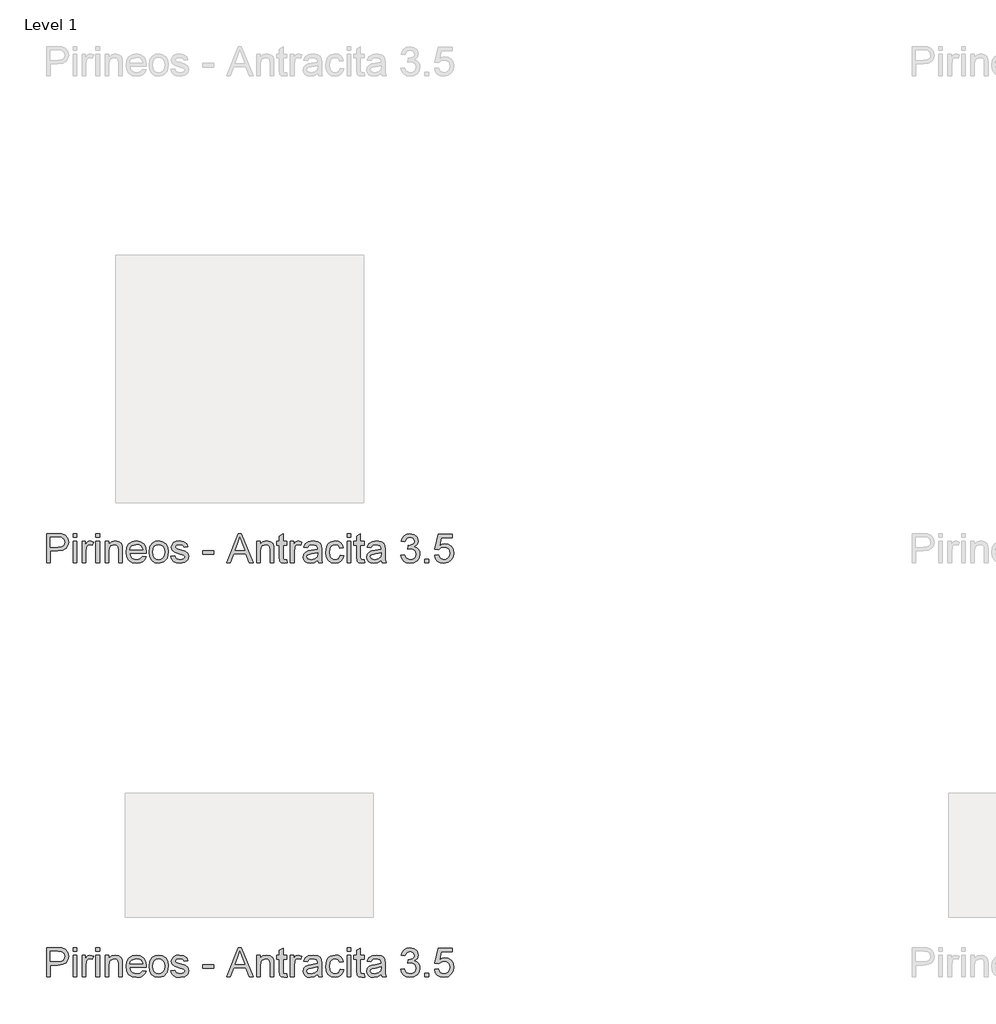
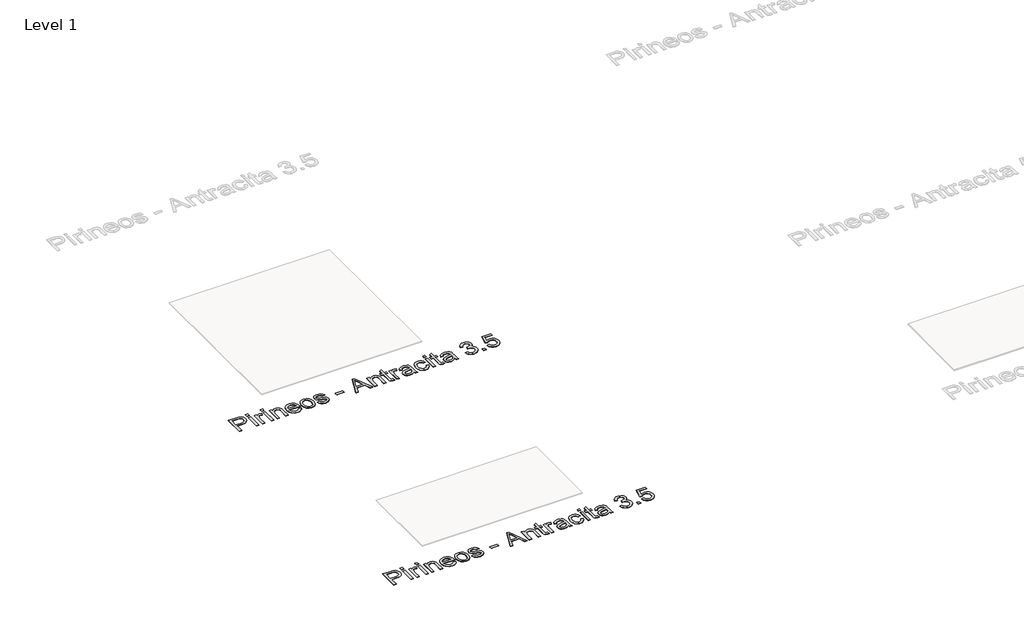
# One storey, part 19 of 80: 2 proxies.
"""IFC4 building model written with IfcOpenShell, lengths in millimetres."""

from ifc_helpers import new_model, si_unit, origin, origin_with_axes, place, context, project, spatial, polyline, outline, extrude, element, save

model = new_model("IFC4")

# Units and contexts
model_context = context("Model", 3, world=origin())
ifc_project = project(units=[si_unit("LENGTHUNIT", "METRE", prefix="MILLI")], contexts=[model_context])

# Site, building, storey
site = spatial("IfcSite", under=ifc_project)
building = spatial("IfcBuilding", under=site)
storey = spatial("IfcBuildingStorey", under=building, Name="Level 1", Elevation=0.0)

# Proxies
placement = place(None, origin())
element("IfcBuildingElementProxy", 1, Name="24\" Arial", ObjectType="24\" Arial", at=placement, inside=storey, context=model_context, shape_type="SweptSolid", body=[
    extrude(outline(polyline([(-19323.3838002, -616.5984808), (-19323.3838002, -498.4446346), (-19279.5953387, -498.4446346), (-19261.9414925, -499.5696346), (-19247.590531, -505.0936731), (-19238.2876464, -516.51675), (-19234.7684156, -532.6273269), (-19237.1446175, -546.5528077), (-19244.2732233, -558.1561731), (-19257.6037521, -565.9879038), (-19278.5857233, -568.5984808), (-19308.6145694, -568.5984808), (-19308.6145694, -616.5984808), (-19323.3838002, -616.5984808)]), holes=[polyline([(-19308.6145694, -553.82925), (-19277.7203387, -553.82925), (-19264.6241848, -552.4734808), (-19255.9703387, -548.4061731), (-19251.1458194, -541.8797308), (-19249.5376464, -533.1465577), (-19253.3309156, -520.9157884), (-19263.2972617, -514.2234808), (-19278.0664925, -513.2138654), (-19308.6145694, -513.2138654), (-19308.6145694, -553.82925)])]), origin_with_axes(), (0.0, 0.0, 1.0), 2.0),
    extrude(outline(polyline([(-19216.3068771, -616.5984808), (-19216.3068771, -529.82925), (-19201.5376464, -529.82925), (-19201.5376464, -616.5984808), (-19216.3068771, -616.5984808)])), origin_with_axes(), (0.0, 0.0, 1.0), 2.0),
    extrude(outline(polyline([(-19216.3068771, -513.2138654), (-19216.3068771, -498.4446346), (-19201.5376464, -498.4446346), (-19201.5376464, -513.2138654), (-19216.3068771, -513.2138654)])), origin_with_axes(), (0.0, 0.0, 1.0), 2.0),
    extrude(outline(polyline([(-19179.3838002, -616.5984808), (-19179.3838002, -529.82925), (-19166.4607233, -529.82925), (-19166.4607233, -542.6657884), (-19157.2876464, -530.8388654), (-19148.0568771, -527.9830961), (-19133.2299541, -532.5407884), (-19138.1626464, -545.7811731), (-19148.5472617, -542.7523269), (-19156.8982233, -545.6657884), (-19162.2203387, -553.7427115), (-19164.6145694, -570.9927115), (-19164.6145694, -616.5984808), (-19179.3838002, -616.5984808)])), origin_with_axes(), (0.0, 0.0, 1.0), 2.0),
    extrude(outline(polyline([(-19123.9991848, -616.5984808), (-19123.9991848, -529.82925), (-19109.2299541, -529.82925), (-19109.2299541, -616.5984808), (-19123.9991848, -616.5984808)])), origin_with_axes(), (0.0, 0.0, 1.0), 2.0),
    extrude(outline(polyline([(-19123.9991848, -513.2138654), (-19123.9991848, -498.4446346), (-19109.2299541, -498.4446346), (-19109.2299541, -513.2138654), (-19123.9991848, -513.2138654)])), origin_with_axes(), (0.0, 0.0, 1.0), 2.0),
    extrude(outline(polyline([(-19087.0761079, -616.5984808), (-19087.0761079, -529.82925), (-19072.3068771, -529.82925), (-19072.3068771, -541.9446346), (-19061.0136079, -531.4734808), (-19045.5953387, -527.9830961), (-19031.6482233, -530.7955961), (-19022.1289925, -538.1802115), (-19017.7011079, -549.0407884), (-19016.9222617, -563.3196346), (-19016.9222617, -616.5984808), (-19031.6914925, -616.5984808), (-19031.6914925, -565.3100192), (-19033.3934156, -552.2427115), (-19039.4078387, -545.3340577), (-19049.5472617, -542.7523269), (-19065.5713002, -548.5504038), (-19070.6229829, -556.9518461), (-19072.3068771, -570.5600192), (-19072.3068771, -616.5984808), (-19087.0761079, -616.5984808)])), origin_with_axes(), (0.0, 0.0, 1.0), 2.0),
    extrude(outline(polyline([(-18935.8645694, -590.7523269), (-18921.3838002, -592.5984808), (-18926.6013483, -603.5095384), (-18934.9270694, -611.6657884), (-18946.1734637, -616.7499231), (-18960.153031, -618.4446346), (-18977.4823579, -615.5203558), (-18990.8164925, -606.7475192), (-18999.3188964, -592.6958365), (-19002.153031, -573.9350192), (-18999.2900502, -554.5431923), (-18990.7011079, -540.0407884), (-18977.5472617, -530.9975192), (-18960.9895694, -527.9830961), (-18944.9475021, -530.9903077), (-18932.1289925, -540.0119423), (-18923.7239444, -554.4855), (-18920.9222617, -573.8484808), (-18921.0088002, -577.82925), (-18987.3838002, -577.82925), (-18984.8273098, -588.8845384), (-18978.8886079, -597.0119423), (-18970.3176944, -602.0095384), (-18959.8645694, -603.6754038), (-18945.3838002, -600.5888654), (-18935.8645694, -590.7523269)]), holes=[polyline([(-18987.3838002, -563.0600192), (-18935.6914925, -563.0600192), (-18941.6049541, -549.6754038), (-18950.215531, -544.4830961), (-18961.0472617, -542.7523269), (-18979.2347617, -548.2763654), (-18984.9571175, -554.7342981), (-18987.3838002, -563.0600192)])]), origin_with_axes(), (0.0, 0.0, 1.0), 2.0),
    extrude(outline(polyline([(-18909.8453387, -573.2138654), (-18906.6506271, -552.2931923), (-18897.0664925, -537.5888654), (-18885.2251464, -530.3845384), (-18871.0472617, -527.9830961), (-18855.5316367, -530.907375), (-18843.1386079, -539.6802115), (-18835.0148098, -553.6092981), (-18832.3068771, -572.0023269), (-18837.0953387, -598.2811731), (-18851.0424541, -613.1513654), (-18871.0472617, -618.4446346), (-18886.7503867, -615.5311731), (-18899.1289925, -606.7907884), (-18907.1662521, -592.5696346), (-18909.8453387, -573.2138654)]), holes=[polyline([(-18895.0761079, -573.1850192), (-18893.3669733, -586.5516058), (-18888.2395694, -596.0744423), (-18880.5232233, -601.7751634), (-18871.0472617, -603.6754038), (-18861.6145694, -601.7643461), (-18853.9126464, -596.0311731), (-18848.7852425, -586.3821346), (-18847.0761079, -572.7234808), (-18848.7960598, -559.7463173), (-18853.9559156, -550.3532884), (-18861.668656, -544.6525673), (-18871.0472617, -542.7523269), (-18880.5232233, -544.6453558), (-18888.2395694, -550.3244423), (-18893.3669733, -559.8256442), (-18895.0761079, -573.1850192)])]), origin_with_axes(), (0.0, 0.0, 1.0), 2.0),
    extrude(outline(polyline([(-18821.2299541, -590.7523269), (-18806.4607233, -588.9061731), (-18799.6241848, -599.8677115), (-18783.9607233, -603.6754038), (-18768.903031, -600.1850192), (-18763.9991848, -591.9927115), (-18768.9318771, -585.3580961), (-18784.1338002, -581.1465577), (-18806.3741848, -573.9205961), (-18816.0809156, -565.4830961), (-18819.3838002, -553.5696346), (-18816.7299541, -542.5648269), (-18809.4895694, -534.1561731), (-18800.1001464, -529.7859808), (-18787.3934156, -527.9830961), (-18769.4222617, -530.8821346), (-18757.9991848, -538.7282884), (-18752.9222617, -551.9830961), (-18767.6914925, -553.82925), (-18773.2443771, -545.6802115), (-18786.2395694, -542.7523269), (-18800.3741848, -545.5504038), (-18804.6145694, -552.0696346), (-18802.8549541, -556.3677115), (-18797.3453387, -559.6273269), (-18784.6241848, -562.7715577), (-18762.9463002, -569.7234808), (-18752.8789925, -577.5984808), (-18749.2299541, -590.4350192), (-18753.5136079, -604.5696346), (-18765.8741848, -614.8244423), (-18784.1626464, -618.4446346), (-18799.0544733, -616.6994423), (-18809.9222617, -611.4638654), (-18817.1770694, -602.7955961), (-18821.2299541, -590.7523269)])), origin_with_axes(), (0.0, 0.0, 1.0), 2.0),
    extrude(outline(polyline([(-18693.8453387, -581.5215577), (-18693.8453387, -566.7523269), (-18647.6914925, -566.7523269), (-18647.6914925, -581.5215577), (-18693.8453387, -581.5215577)])), origin_with_axes(), (0.0, 0.0, 1.0), 2.0),
    extrude(outline(polyline([(-18596.8357233, -616.5984808), (-18549.6722617, -498.4446346), (-18537.0953387, -498.4446346), (-18489.9318771, -616.5984808), (-18505.5376464, -616.5984808), (-18519.0664925, -579.6754038), (-18567.7299541, -579.6754038), (-18581.2299541, -616.5984808), (-18596.8357233, -616.5984808)]), holes=[polyline([(-18562.3068771, -564.9061731), (-18524.4607233, -564.9061731), (-18535.1049541, -535.8580961), (-18543.3838002, -513.2138654), (-18550.7395694, -533.3196346), (-18562.3068771, -564.9061731)])]), origin_with_axes(), (0.0, 0.0, 1.0), 2.0),
    extrude(outline(polyline([(-18475.9991848, -616.5984808), (-18475.9991848, -529.82925), (-18461.2299541, -529.82925), (-18461.2299541, -541.9446346), (-18449.9366848, -531.4734808), (-18434.5184156, -527.9830961), (-18420.5713002, -530.7955961), (-18411.0520694, -538.1802115), (-18406.6241848, -549.0407884), (-18405.8453387, -563.3196346), (-18405.8453387, -616.5984808), (-18420.6145694, -616.5984808), (-18420.6145694, -565.3100192), (-18422.3164925, -552.2427115), (-18428.3309156, -545.3340577), (-18438.4703387, -542.7523269), (-18454.4943771, -548.5504038), (-18459.5460598, -556.9518461), (-18461.2299541, -570.5600192), (-18461.2299541, -616.5984808), (-18475.9991848, -616.5984808)])), origin_with_axes(), (0.0, 0.0, 1.0), 2.0),
    extrude(outline(polyline([(-18354.153031, -604.2811731), (-18352.3068771, -617.0311731), (-18363.3549541, -618.4446346), (-18375.7299541, -615.9927115), (-18381.903031, -609.5600192), (-18383.6914925, -592.8004038), (-18383.6914925, -544.5984808), (-18394.7684156, -544.5984808), (-18394.7684156, -529.82925), (-18383.6914925, -529.82925), (-18383.6914925, -508.7427115), (-18368.9222617, -500.0600192), (-18368.9222617, -529.82925), (-18354.153031, -529.82925), (-18354.153031, -544.5984808), (-18368.9222617, -544.5984808), (-18368.9222617, -592.3677115), (-18368.1434156, -599.9830961), (-18365.6193771, -602.6802115), (-18360.5857233, -603.6754038), (-18354.153031, -604.2811731)])), origin_with_axes(), (0.0, 0.0, 1.0), 2.0),
    extrude(outline(polyline([(-18339.3838002, -616.5984808), (-18339.3838002, -529.82925), (-18326.4607233, -529.82925), (-18326.4607233, -542.6657884), (-18317.2876464, -530.8388654), (-18308.0568771, -527.9830961), (-18293.2299541, -532.5407884), (-18298.1626464, -545.7811731), (-18308.5472617, -542.7523269), (-18316.8982233, -545.6657884), (-18322.2203387, -553.7427115), (-18324.6145694, -570.9927115), (-18324.6145694, -616.5984808), (-18339.3838002, -616.5984808)])), origin_with_axes(), (0.0, 0.0, 1.0), 2.0),
    extrude(outline(polyline([(-18228.6145694, -605.5215577), (-18242.9366848, -615.5311731), (-18258.7588002, -618.4446346), (-18271.1013483, -616.6922308), (-18280.2059156, -611.4350192), (-18285.8200983, -603.4518461), (-18287.6914925, -593.5215577), (-18284.8645694, -581.8388654), (-18277.4366848, -573.3580961), (-18267.0953387, -568.5119423), (-18254.3164925, -566.2907884), (-18228.7011079, -561.2138654), (-18228.6145694, -557.9254038), (-18232.6818771, -547.0215577), (-18249.0088002, -542.7523269), (-18263.9511079, -545.5936731), (-18271.0761079, -555.6754038), (-18285.8453387, -553.82925), (-18279.4559156, -539.4061731), (-18266.590531, -530.95425), (-18247.1049541, -527.9830961), (-18229.2059156, -530.6080961), (-18219.0953387, -537.1994423), (-18214.5664925, -547.2234808), (-18213.8453387, -560.1465577), (-18213.8453387, -578.5215577), (-18213.0953387, -604.1802115), (-18210.153031, -616.5984808), (-18224.9222617, -616.5984808), (-18228.6145694, -605.5215577)]), holes=[polyline([(-18228.6145694, -575.9830961), (-18252.4414925, -580.5119423), (-18265.1482233, -582.9061731), (-18270.903031, -586.8004038), (-18272.9222617, -592.4830961), (-18268.5232233, -600.4734808), (-18255.6145694, -603.6754038), (-18240.6722617, -600.14175), (-18231.0376464, -591.5888654), (-18228.7011079, -580.1657884), (-18228.6145694, -575.9830961)])]), origin_with_axes(), (0.0, 0.0, 1.0), 2.0),
    extrude(outline(polyline([(-18138.153031, -585.2138654), (-18123.3838002, -587.0600192), (-18127.5015887, -600.1958365), (-18135.2395694, -610.1225192), (-18145.8693771, -616.3641058), (-18158.6626464, -618.4446346), (-18174.3729829, -615.5419904), (-18186.6578387, -606.8340577), (-18194.5869252, -592.7030481), (-18197.2299541, -573.5311731), (-18192.715531, -548.9975192), (-18187.0184156, -539.7992019), (-18178.9559156, -533.2330961), (-18158.8645694, -527.9830961), (-18146.3850021, -529.7859808), (-18136.4078387, -535.1946346), (-18129.2503867, -543.9205961), (-18125.2299541, -555.6754038), (-18139.9991848, -557.5215577), (-18146.8501464, -546.4590577), (-18158.7491848, -542.7523269), (-18168.293656, -544.5768461), (-18175.8693771, -550.0504038), (-18180.8128867, -559.4686731), (-18182.4607233, -573.1273269), (-18180.8489444, -586.969875), (-18176.0136079, -596.4205961), (-18168.574906, -601.8617019), (-18159.153031, -603.6754038), (-18145.2347617, -599.1465577), (-18138.153031, -585.2138654)])), origin_with_axes(), (0.0, 0.0, 1.0), 2.0),
    extrude(outline(polyline([(-18110.4607233, -616.5984808), (-18110.4607233, -529.82925), (-18095.6914925, -529.82925), (-18095.6914925, -616.5984808), (-18110.4607233, -616.5984808)])), origin_with_axes(), (0.0, 0.0, 1.0), 2.0),
    extrude(outline(polyline([(-18110.4607233, -513.2138654), (-18110.4607233, -498.4446346), (-18095.6914925, -498.4446346), (-18095.6914925, -513.2138654), (-18110.4607233, -513.2138654)])), origin_with_axes(), (0.0, 0.0, 1.0), 2.0),
    extrude(outline(polyline([(-18042.153031, -604.2811731), (-18040.3068771, -617.0311731), (-18051.3549541, -618.4446346), (-18063.7299541, -615.9927115), (-18069.903031, -609.5600192), (-18071.6914925, -592.8004038), (-18071.6914925, -544.5984808), (-18082.7684156, -544.5984808), (-18082.7684156, -529.82925), (-18071.6914925, -529.82925), (-18071.6914925, -508.7427115), (-18056.9222617, -500.0600192), (-18056.9222617, -529.82925), (-18042.153031, -529.82925), (-18042.153031, -544.5984808), (-18056.9222617, -544.5984808), (-18056.9222617, -592.3677115), (-18056.1434156, -599.9830961), (-18053.6193771, -602.6802115), (-18048.5857233, -603.6754038), (-18042.153031, -604.2811731)])), origin_with_axes(), (0.0, 0.0, 1.0), 2.0),
    extrude(outline(polyline([(-17971.9991848, -605.5215577), (-17986.3213002, -615.5311731), (-18002.1434156, -618.4446346), (-18014.4859637, -616.6922308), (-18023.590531, -611.4350192), (-18029.2047137, -603.4518461), (-18031.0761079, -593.5215577), (-18028.2491848, -581.8388654), (-18020.8213002, -573.3580961), (-18010.4799541, -568.5119423), (-17997.7011079, -566.2907884), (-17972.0857233, -561.2138654), (-17971.9991848, -557.9254038), (-17976.0664925, -547.0215577), (-17992.3934156, -542.7523269), (-18007.3357233, -545.5936731), (-18014.4607233, -555.6754038), (-18029.2299541, -553.82925), (-18022.840531, -539.4061731), (-18009.9751464, -530.95425), (-17990.4895694, -527.9830961), (-17972.590531, -530.6080961), (-17962.4799541, -537.1994423), (-17957.9511079, -547.2234808), (-17957.2299541, -560.1465577), (-17957.2299541, -578.5215577), (-17956.4799541, -604.1802115), (-17953.5376464, -616.5984808), (-17968.3068771, -616.5984808), (-17971.9991848, -605.5215577)]), holes=[polyline([(-17971.9991848, -575.9830961), (-17995.8261079, -580.5119423), (-18008.5328387, -582.9061731), (-18014.2876464, -586.8004038), (-18016.3068771, -592.4830961), (-18011.9078387, -600.4734808), (-17998.9991848, -603.6754038), (-17984.0568771, -600.14175), (-17974.4222617, -591.5888654), (-17972.0857233, -580.1657884), (-17971.9991848, -575.9830961)])]), origin_with_axes(), (0.0, 0.0, 1.0), 2.0),
    extrude(outline(polyline([(-17894.4607233, -585.2138654), (-17879.6914925, -583.3677115), (-17871.5424541, -598.9157884), (-17856.2972617, -603.6754038), (-17846.1722617, -602.0383846), (-17838.3549541, -597.1273269), (-17833.3573579, -589.8004038), (-17831.6914925, -580.9157884), (-17833.3429348, -572.4818942), (-17838.2972617, -565.64175), (-17845.7972617, -561.1092981), (-17855.0857233, -559.5984808), (-17865.4414925, -561.2138654), (-17863.7972617, -546.4446346), (-17861.4318771, -546.6177115), (-17844.6722617, -542.3773269), (-17839.090531, -536.9975192), (-17837.2299541, -529.3388654), (-17842.6241848, -517.7859808), (-17856.528031, -513.2138654), (-17870.6049541, -517.82925), (-17877.8453387, -531.6754038), (-17892.6145694, -529.82925), (-17888.2660117, -516.5672308), (-17880.528031, -506.6657884), (-17869.9414925, -500.4999231), (-17857.0472617, -498.4446346), (-17839.2347617, -502.4975192), (-17826.7732233, -513.5744423), (-17822.4607233, -528.4734808), (-17826.5568771, -542.0888654), (-17838.6722617, -551.8677115), (-17829.4270694, -555.6032884), (-17822.5761079, -561.9638654), (-17818.3357233, -570.6032884), (-17816.9222617, -581.1754038), (-17819.7491848, -595.5696346), (-17828.2299541, -607.5984808), (-17841.0304348, -615.7330961), (-17856.8164925, -618.4446346), (-17871.0953387, -616.1297308), (-17882.7203387, -609.1850192), (-17890.8044733, -598.5624231), (-17894.4607233, -585.2138654)])), origin_with_axes(), (0.0, 0.0, 1.0), 2.0),
    extrude(outline(polyline([(-17796.6145694, -616.5984808), (-17796.6145694, -601.82925), (-17781.8453387, -601.82925), (-17781.8453387, -616.5984808), (-17796.6145694, -616.5984808)])), origin_with_axes(), (0.0, 0.0, 1.0), 2.0),
    extrude(outline(polyline([(-17757.8453387, -585.2138654), (-17743.0761079, -583.3677115), (-17735.6338002, -598.5840577), (-17720.2011079, -603.6754038), (-17709.6145694, -601.9049711), (-17701.6818771, -596.5936731), (-17696.7275502, -588.3544904), (-17695.0761079, -577.8004038), (-17696.6229829, -567.8629038), (-17701.2636079, -560.2619423), (-17709.0340406, -555.4374231), (-17719.9703387, -553.82925), (-17732.9366848, -556.3965577), (-17741.2299541, -563.0600192), (-17755.9991848, -561.2138654), (-17743.0761079, -500.2907884), (-17685.8453387, -500.2907884), (-17685.8453387, -515.0600192), (-17731.1338002, -515.0600192), (-17737.4511079, -547.5984808), (-17726.9006271, -541.1946346), (-17715.8453387, -539.0600192), (-17702.0460598, -541.7066538), (-17690.590531, -549.6465577), (-17682.8777906, -561.7475192), (-17680.3068771, -576.8773269), (-17682.621781, -591.6465577), (-17689.5664925, -604.2811731), (-17702.8645694, -614.9037692), (-17720.2588002, -618.4446346), (-17734.7648098, -616.1693942), (-17746.3213002, -609.3436731), (-17754.2431752, -598.7607404), (-17757.8453387, -585.2138654)])), origin_with_axes(), (0.0, 0.0, 1.0), 2.0),
])
element("IfcBuildingElementProxy", 2, Name="24\" Arial", ObjectType="24\" Arial", at=placement, inside=storey, context=model_context, shape_type="SweptSolid", body=[
    extrude(outline(polyline([(-19323.3838002, -2287.8052427), (-19323.3838002, -2169.6513966), (-19279.5953387, -2169.6513966), (-19261.9414925, -2170.7763966), (-19247.590531, -2176.300435), (-19238.2876464, -2187.723512), (-19234.7684156, -2203.8340889), (-19237.1446175, -2217.7595697), (-19244.2732233, -2229.362935), (-19257.6037521, -2237.1946658), (-19278.5857233, -2239.8052427), (-19308.6145694, -2239.8052427), (-19308.6145694, -2287.8052427), (-19323.3838002, -2287.8052427)]), holes=[polyline([(-19308.6145694, -2225.036012), (-19277.7203387, -2225.036012), (-19264.6241848, -2223.6802427), (-19255.9703387, -2219.612935), (-19251.1458194, -2213.0864927), (-19249.5376464, -2204.3533197), (-19253.3309156, -2192.1225504), (-19263.2972617, -2185.4302427), (-19278.0664925, -2184.4206273), (-19308.6145694, -2184.4206273), (-19308.6145694, -2225.036012)])]), origin_with_axes(), (0.0, 0.0, 1.0), 2.0),
    extrude(outline(polyline([(-19216.3068771, -2287.8052427), (-19216.3068771, -2201.036012), (-19201.5376464, -2201.036012), (-19201.5376464, -2287.8052427), (-19216.3068771, -2287.8052427)])), origin_with_axes(), (0.0, 0.0, 1.0), 2.0),
    extrude(outline(polyline([(-19216.3068771, -2184.4206273), (-19216.3068771, -2169.6513966), (-19201.5376464, -2169.6513966), (-19201.5376464, -2184.4206273), (-19216.3068771, -2184.4206273)])), origin_with_axes(), (0.0, 0.0, 1.0), 2.0),
    extrude(outline(polyline([(-19179.3838002, -2287.8052427), (-19179.3838002, -2201.036012), (-19166.4607233, -2201.036012), (-19166.4607233, -2213.8725504), (-19157.2876464, -2202.0456273), (-19148.0568771, -2199.1898581), (-19133.2299541, -2203.7475504), (-19138.1626464, -2216.987935), (-19148.5472617, -2213.9590889), (-19156.8982233, -2216.8725504), (-19162.2203387, -2224.9494735), (-19164.6145694, -2242.1994735), (-19164.6145694, -2287.8052427), (-19179.3838002, -2287.8052427)])), origin_with_axes(), (0.0, 0.0, 1.0), 2.0),
    extrude(outline(polyline([(-19123.9991848, -2287.8052427), (-19123.9991848, -2201.036012), (-19109.2299541, -2201.036012), (-19109.2299541, -2287.8052427), (-19123.9991848, -2287.8052427)])), origin_with_axes(), (0.0, 0.0, 1.0), 2.0),
    extrude(outline(polyline([(-19123.9991848, -2184.4206273), (-19123.9991848, -2169.6513966), (-19109.2299541, -2169.6513966), (-19109.2299541, -2184.4206273), (-19123.9991848, -2184.4206273)])), origin_with_axes(), (0.0, 0.0, 1.0), 2.0),
    extrude(outline(polyline([(-19087.0761079, -2287.8052427), (-19087.0761079, -2201.036012), (-19072.3068771, -2201.036012), (-19072.3068771, -2213.1513966), (-19061.0136079, -2202.6802427), (-19045.5953387, -2199.1898581), (-19031.6482233, -2202.0023581), (-19022.1289925, -2209.3869735), (-19017.7011079, -2220.2475504), (-19016.9222617, -2234.5263966), (-19016.9222617, -2287.8052427), (-19031.6914925, -2287.8052427), (-19031.6914925, -2236.5167812), (-19033.3934156, -2223.4494735), (-19039.4078387, -2216.5408197), (-19049.5472617, -2213.9590889), (-19065.5713002, -2219.7571658), (-19070.6229829, -2228.1586081), (-19072.3068771, -2241.7667812), (-19072.3068771, -2287.8052427), (-19087.0761079, -2287.8052427)])), origin_with_axes(), (0.0, 0.0, 1.0), 2.0),
    extrude(outline(polyline([(-18935.8645694, -2261.9590889), (-18921.3838002, -2263.8052427), (-18926.6013483, -2274.7163004), (-18934.9270694, -2282.8725504), (-18946.1734637, -2287.956685), (-18960.153031, -2289.6513966), (-18977.4823579, -2286.7271177), (-18990.8164925, -2277.9542812), (-18999.3188964, -2263.9025985), (-19002.153031, -2245.1417812), (-18999.2900502, -2225.7499543), (-18990.7011079, -2211.2475504), (-18977.5472617, -2202.2042812), (-18960.9895694, -2199.1898581), (-18944.9475021, -2202.1970697), (-18932.1289925, -2211.2187043), (-18923.7239444, -2225.692262), (-18920.9222617, -2245.0552427), (-18921.0088002, -2249.036012), (-18987.3838002, -2249.036012), (-18984.8273098, -2260.0913004), (-18978.8886079, -2268.2187043), (-18970.3176944, -2273.2163004), (-18959.8645694, -2274.8821658), (-18945.3838002, -2271.7956273), (-18935.8645694, -2261.9590889)]), holes=[polyline([(-18987.3838002, -2234.2667812), (-18935.6914925, -2234.2667812), (-18941.6049541, -2220.8821658), (-18950.215531, -2215.6898581), (-18961.0472617, -2213.9590889), (-18979.2347617, -2219.4831273), (-18984.9571175, -2225.94106), (-18987.3838002, -2234.2667812)])]), origin_with_axes(), (0.0, 0.0, 1.0), 2.0),
    extrude(outline(polyline([(-18909.8453387, -2244.4206273), (-18906.6506271, -2223.4999543), (-18897.0664925, -2208.7956273), (-18885.2251464, -2201.5913004), (-18871.0472617, -2199.1898581), (-18855.5316367, -2202.114137), (-18843.1386079, -2210.8869735), (-18835.0148098, -2224.81606), (-18832.3068771, -2243.2090889), (-18837.0953387, -2269.487935), (-18851.0424541, -2284.3581273), (-18871.0472617, -2289.6513966), (-18886.7503867, -2286.737935), (-18899.1289925, -2277.9975504), (-18907.1662521, -2263.7763966), (-18909.8453387, -2244.4206273)]), holes=[polyline([(-18895.0761079, -2244.3917812), (-18893.3669733, -2257.7583677), (-18888.2395694, -2267.2812043), (-18880.5232233, -2272.9819254), (-18871.0472617, -2274.8821658), (-18861.6145694, -2272.9711081), (-18853.9126464, -2267.237935), (-18848.7852425, -2257.5888966), (-18847.0761079, -2243.9302427), (-18848.7960598, -2230.9530793), (-18853.9559156, -2221.5600504), (-18861.668656, -2215.8593293), (-18871.0472617, -2213.9590889), (-18880.5232233, -2215.8521177), (-18888.2395694, -2221.5312043), (-18893.3669733, -2231.0324062), (-18895.0761079, -2244.3917812)])]), origin_with_axes(), (0.0, 0.0, 1.0), 2.0),
    extrude(outline(polyline([(-18821.2299541, -2261.9590889), (-18806.4607233, -2260.112935), (-18799.6241848, -2271.0744735), (-18783.9607233, -2274.8821658), (-18768.903031, -2271.3917812), (-18763.9991848, -2263.1994735), (-18768.9318771, -2256.5648581), (-18784.1338002, -2252.3533197), (-18806.3741848, -2245.1273581), (-18816.0809156, -2236.6898581), (-18819.3838002, -2224.7763966), (-18816.7299541, -2213.7715889), (-18809.4895694, -2205.362935), (-18800.1001464, -2200.9927427), (-18787.3934156, -2199.1898581), (-18769.4222617, -2202.0888966), (-18757.9991848, -2209.9350504), (-18752.9222617, -2223.1898581), (-18767.6914925, -2225.036012), (-18773.2443771, -2216.8869735), (-18786.2395694, -2213.9590889), (-18800.3741848, -2216.7571658), (-18804.6145694, -2223.2763966), (-18802.8549541, -2227.5744735), (-18797.3453387, -2230.8340889), (-18784.6241848, -2233.9783197), (-18762.9463002, -2240.9302427), (-18752.8789925, -2248.8052427), (-18749.2299541, -2261.6417812), (-18753.5136079, -2275.7763966), (-18765.8741848, -2286.0312043), (-18784.1626464, -2289.6513966), (-18799.0544733, -2287.9062043), (-18809.9222617, -2282.6706273), (-18817.1770694, -2274.0023581), (-18821.2299541, -2261.9590889)])), origin_with_axes(), (0.0, 0.0, 1.0), 2.0),
    extrude(outline(polyline([(-18693.8453387, -2252.7283197), (-18693.8453387, -2237.9590889), (-18647.6914925, -2237.9590889), (-18647.6914925, -2252.7283197), (-18693.8453387, -2252.7283197)])), origin_with_axes(), (0.0, 0.0, 1.0), 2.0),
    extrude(outline(polyline([(-18596.8357233, -2287.8052427), (-18549.6722617, -2169.6513966), (-18537.0953387, -2169.6513966), (-18489.9318771, -2287.8052427), (-18505.5376464, -2287.8052427), (-18519.0664925, -2250.8821658), (-18567.7299541, -2250.8821658), (-18581.2299541, -2287.8052427), (-18596.8357233, -2287.8052427)]), holes=[polyline([(-18562.3068771, -2236.112935), (-18524.4607233, -2236.112935), (-18535.1049541, -2207.0648581), (-18543.3838002, -2184.4206273), (-18550.7395694, -2204.5263966), (-18562.3068771, -2236.112935)])]), origin_with_axes(), (0.0, 0.0, 1.0), 2.0),
    extrude(outline(polyline([(-18475.9991848, -2287.8052427), (-18475.9991848, -2201.036012), (-18461.2299541, -2201.036012), (-18461.2299541, -2213.1513966), (-18449.9366848, -2202.6802427), (-18434.5184156, -2199.1898581), (-18420.5713002, -2202.0023581), (-18411.0520694, -2209.3869735), (-18406.6241848, -2220.2475504), (-18405.8453387, -2234.5263966), (-18405.8453387, -2287.8052427), (-18420.6145694, -2287.8052427), (-18420.6145694, -2236.5167812), (-18422.3164925, -2223.4494735), (-18428.3309156, -2216.5408197), (-18438.4703387, -2213.9590889), (-18454.4943771, -2219.7571658), (-18459.5460598, -2228.1586081), (-18461.2299541, -2241.7667812), (-18461.2299541, -2287.8052427), (-18475.9991848, -2287.8052427)])), origin_with_axes(), (0.0, 0.0, 1.0), 2.0),
    extrude(outline(polyline([(-18354.153031, -2275.487935), (-18352.3068771, -2288.237935), (-18363.3549541, -2289.6513966), (-18375.7299541, -2287.1994735), (-18381.903031, -2280.7667812), (-18383.6914925, -2264.0071658), (-18383.6914925, -2215.8052427), (-18394.7684156, -2215.8052427), (-18394.7684156, -2201.036012), (-18383.6914925, -2201.036012), (-18383.6914925, -2179.9494735), (-18368.9222617, -2171.2667812), (-18368.9222617, -2201.036012), (-18354.153031, -2201.036012), (-18354.153031, -2215.8052427), (-18368.9222617, -2215.8052427), (-18368.9222617, -2263.5744735), (-18368.1434156, -2271.1898581), (-18365.6193771, -2273.8869735), (-18360.5857233, -2274.8821658), (-18354.153031, -2275.487935)])), origin_with_axes(), (0.0, 0.0, 1.0), 2.0),
    extrude(outline(polyline([(-18339.3838002, -2287.8052427), (-18339.3838002, -2201.036012), (-18326.4607233, -2201.036012), (-18326.4607233, -2213.8725504), (-18317.2876464, -2202.0456273), (-18308.0568771, -2199.1898581), (-18293.2299541, -2203.7475504), (-18298.1626464, -2216.987935), (-18308.5472617, -2213.9590889), (-18316.8982233, -2216.8725504), (-18322.2203387, -2224.9494735), (-18324.6145694, -2242.1994735), (-18324.6145694, -2287.8052427), (-18339.3838002, -2287.8052427)])), origin_with_axes(), (0.0, 0.0, 1.0), 2.0),
    extrude(outline(polyline([(-18228.6145694, -2276.7283197), (-18242.9366848, -2286.737935), (-18258.7588002, -2289.6513966), (-18271.1013483, -2287.8989927), (-18280.2059156, -2282.6417812), (-18285.8200983, -2274.6586081), (-18287.6914925, -2264.7283197), (-18284.8645694, -2253.0456273), (-18277.4366848, -2244.5648581), (-18267.0953387, -2239.7187043), (-18254.3164925, -2237.4975504), (-18228.7011079, -2232.4206273), (-18228.6145694, -2229.1321658), (-18232.6818771, -2218.2283197), (-18249.0088002, -2213.9590889), (-18263.9511079, -2216.800435), (-18271.0761079, -2226.8821658), (-18285.8453387, -2225.036012), (-18279.4559156, -2210.612935), (-18266.590531, -2202.161012), (-18247.1049541, -2199.1898581), (-18229.2059156, -2201.8148581), (-18219.0953387, -2208.4062043), (-18214.5664925, -2218.4302427), (-18213.8453387, -2231.3533197), (-18213.8453387, -2249.7283197), (-18213.0953387, -2275.3869735), (-18210.153031, -2287.8052427), (-18224.9222617, -2287.8052427), (-18228.6145694, -2276.7283197)]), holes=[polyline([(-18228.6145694, -2247.1898581), (-18252.4414925, -2251.7187043), (-18265.1482233, -2254.112935), (-18270.903031, -2258.0071658), (-18272.9222617, -2263.6898581), (-18268.5232233, -2271.6802427), (-18255.6145694, -2274.8821658), (-18240.6722617, -2271.348512), (-18231.0376464, -2262.7956273), (-18228.7011079, -2251.3725504), (-18228.6145694, -2247.1898581)])]), origin_with_axes(), (0.0, 0.0, 1.0), 2.0),
    extrude(outline(polyline([(-18138.153031, -2256.4206273), (-18123.3838002, -2258.2667812), (-18127.5015887, -2271.4025985), (-18135.2395694, -2281.3292812), (-18145.8693771, -2287.5708677), (-18158.6626464, -2289.6513966), (-18174.3729829, -2286.7487523), (-18186.6578387, -2278.0408197), (-18194.5869252, -2263.90981), (-18197.2299541, -2244.737935), (-18192.715531, -2220.2042812), (-18187.0184156, -2211.0059639), (-18178.9559156, -2204.4398581), (-18158.8645694, -2199.1898581), (-18146.3850021, -2200.9927427), (-18136.4078387, -2206.4013966), (-18129.2503867, -2215.1273581), (-18125.2299541, -2226.8821658), (-18139.9991848, -2228.7283197), (-18146.8501464, -2217.6658197), (-18158.7491848, -2213.9590889), (-18168.293656, -2215.7836081), (-18175.8693771, -2221.2571658), (-18180.8128867, -2230.675435), (-18182.4607233, -2244.3340889), (-18180.8489444, -2258.176637), (-18176.0136079, -2267.6273581), (-18168.574906, -2273.0684639), (-18159.153031, -2274.8821658), (-18145.2347617, -2270.3533197), (-18138.153031, -2256.4206273)])), origin_with_axes(), (0.0, 0.0, 1.0), 2.0),
    extrude(outline(polyline([(-18110.4607233, -2287.8052427), (-18110.4607233, -2201.036012), (-18095.6914925, -2201.036012), (-18095.6914925, -2287.8052427), (-18110.4607233, -2287.8052427)])), origin_with_axes(), (0.0, 0.0, 1.0), 2.0),
    extrude(outline(polyline([(-18110.4607233, -2184.4206273), (-18110.4607233, -2169.6513966), (-18095.6914925, -2169.6513966), (-18095.6914925, -2184.4206273), (-18110.4607233, -2184.4206273)])), origin_with_axes(), (0.0, 0.0, 1.0), 2.0),
    extrude(outline(polyline([(-18042.153031, -2275.487935), (-18040.3068771, -2288.237935), (-18051.3549541, -2289.6513966), (-18063.7299541, -2287.1994735), (-18069.903031, -2280.7667812), (-18071.6914925, -2264.0071658), (-18071.6914925, -2215.8052427), (-18082.7684156, -2215.8052427), (-18082.7684156, -2201.036012), (-18071.6914925, -2201.036012), (-18071.6914925, -2179.9494735), (-18056.9222617, -2171.2667812), (-18056.9222617, -2201.036012), (-18042.153031, -2201.036012), (-18042.153031, -2215.8052427), (-18056.9222617, -2215.8052427), (-18056.9222617, -2263.5744735), (-18056.1434156, -2271.1898581), (-18053.6193771, -2273.8869735), (-18048.5857233, -2274.8821658), (-18042.153031, -2275.487935)])), origin_with_axes(), (0.0, 0.0, 1.0), 2.0),
    extrude(outline(polyline([(-17971.9991848, -2276.7283197), (-17986.3213002, -2286.737935), (-18002.1434156, -2289.6513966), (-18014.4859637, -2287.8989927), (-18023.590531, -2282.6417812), (-18029.2047137, -2274.6586081), (-18031.0761079, -2264.7283197), (-18028.2491848, -2253.0456273), (-18020.8213002, -2244.5648581), (-18010.4799541, -2239.7187043), (-17997.7011079, -2237.4975504), (-17972.0857233, -2232.4206273), (-17971.9991848, -2229.1321658), (-17976.0664925, -2218.2283197), (-17992.3934156, -2213.9590889), (-18007.3357233, -2216.800435), (-18014.4607233, -2226.8821658), (-18029.2299541, -2225.036012), (-18022.840531, -2210.612935), (-18009.9751464, -2202.161012), (-17990.4895694, -2199.1898581), (-17972.590531, -2201.8148581), (-17962.4799541, -2208.4062043), (-17957.9511079, -2218.4302427), (-17957.2299541, -2231.3533197), (-17957.2299541, -2249.7283197), (-17956.4799541, -2275.3869735), (-17953.5376464, -2287.8052427), (-17968.3068771, -2287.8052427), (-17971.9991848, -2276.7283197)]), holes=[polyline([(-17971.9991848, -2247.1898581), (-17995.8261079, -2251.7187043), (-18008.5328387, -2254.112935), (-18014.2876464, -2258.0071658), (-18016.3068771, -2263.6898581), (-18011.9078387, -2271.6802427), (-17998.9991848, -2274.8821658), (-17984.0568771, -2271.348512), (-17974.4222617, -2262.7956273), (-17972.0857233, -2251.3725504), (-17971.9991848, -2247.1898581)])]), origin_with_axes(), (0.0, 0.0, 1.0), 2.0),
    extrude(outline(polyline([(-17894.4607233, -2256.4206273), (-17879.6914925, -2254.5744735), (-17871.5424541, -2270.1225504), (-17856.2972617, -2274.8821658), (-17846.1722617, -2273.2451466), (-17838.3549541, -2268.3340889), (-17833.3573579, -2261.0071658), (-17831.6914925, -2252.1225504), (-17833.3429348, -2243.6886562), (-17838.2972617, -2236.848512), (-17845.7972617, -2232.31606), (-17855.0857233, -2230.8052427), (-17865.4414925, -2232.4206273), (-17863.7972617, -2217.6513966), (-17861.4318771, -2217.8244735), (-17844.6722617, -2213.5840889), (-17839.090531, -2208.2042812), (-17837.2299541, -2200.5456273), (-17842.6241848, -2188.9927427), (-17856.528031, -2184.4206273), (-17870.6049541, -2189.036012), (-17877.8453387, -2202.8821658), (-17892.6145694, -2201.036012), (-17888.2660117, -2187.7739927), (-17880.528031, -2177.8725504), (-17869.9414925, -2171.706685), (-17857.0472617, -2169.6513966), (-17839.2347617, -2173.7042812), (-17826.7732233, -2184.7812043), (-17822.4607233, -2199.6802427), (-17826.5568771, -2213.2956273), (-17838.6722617, -2223.0744735), (-17829.4270694, -2226.8100504), (-17822.5761079, -2233.1706273), (-17818.3357233, -2241.8100504), (-17816.9222617, -2252.3821658), (-17819.7491848, -2266.7763966), (-17828.2299541, -2278.8052427), (-17841.0304348, -2286.9398581), (-17856.8164925, -2289.6513966), (-17871.0953387, -2287.3364927), (-17882.7203387, -2280.3917812), (-17890.8044733, -2269.769185), (-17894.4607233, -2256.4206273)])), origin_with_axes(), (0.0, 0.0, 1.0), 2.0),
    extrude(outline(polyline([(-17796.6145694, -2287.8052427), (-17796.6145694, -2273.036012), (-17781.8453387, -2273.036012), (-17781.8453387, -2287.8052427), (-17796.6145694, -2287.8052427)])), origin_with_axes(), (0.0, 0.0, 1.0), 2.0),
    extrude(outline(polyline([(-17757.8453387, -2256.4206273), (-17743.0761079, -2254.5744735), (-17735.6338002, -2269.7908197), (-17720.2011079, -2274.8821658), (-17709.6145694, -2273.1117331), (-17701.6818771, -2267.800435), (-17696.7275502, -2259.5612523), (-17695.0761079, -2249.0071658), (-17696.6229829, -2239.0696658), (-17701.2636079, -2231.4687043), (-17709.0340406, -2226.644185), (-17719.9703387, -2225.036012), (-17732.9366848, -2227.6033197), (-17741.2299541, -2234.2667812), (-17755.9991848, -2232.4206273), (-17743.0761079, -2171.4975504), (-17685.8453387, -2171.4975504), (-17685.8453387, -2186.2667812), (-17731.1338002, -2186.2667812), (-17737.4511079, -2218.8052427), (-17726.9006271, -2212.4013966), (-17715.8453387, -2210.2667812), (-17702.0460598, -2212.9134158), (-17690.590531, -2220.8533197), (-17682.8777906, -2232.9542812), (-17680.3068771, -2248.0840889), (-17682.621781, -2262.8533197), (-17689.5664925, -2275.487935), (-17702.8645694, -2286.1105312), (-17720.2588002, -2289.6513966), (-17734.7648098, -2287.3761562), (-17746.3213002, -2280.550435), (-17754.2431752, -2269.9675023), (-17757.8453387, -2256.4206273)])), origin_with_axes(), (0.0, 0.0, 1.0), 2.0),
])

save(model, "model.ifc")
